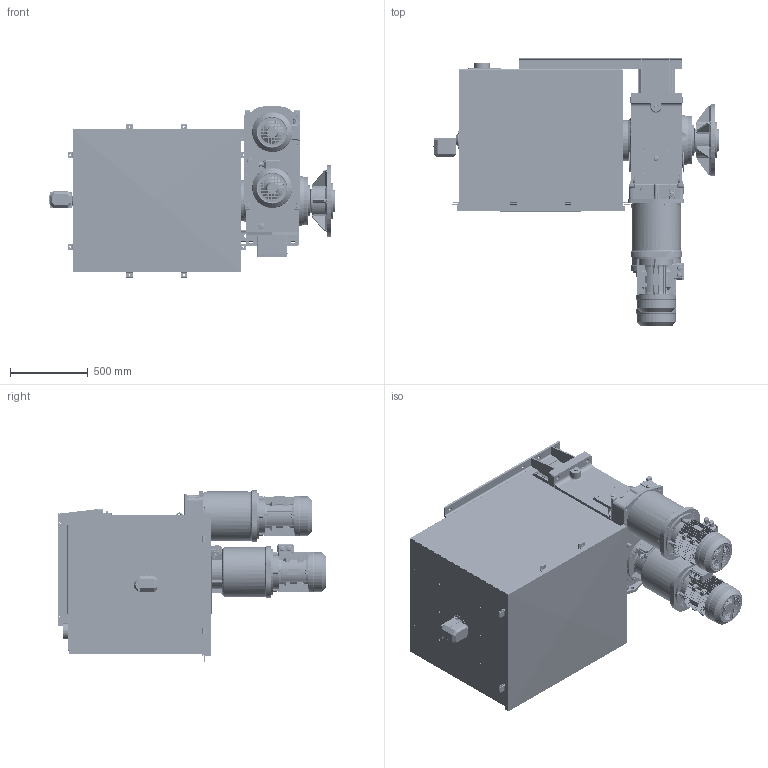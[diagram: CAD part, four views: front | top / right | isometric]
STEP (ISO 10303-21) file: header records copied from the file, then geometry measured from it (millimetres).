
FILE_DESCRIPTION(/* description */ (''),/* implementation_level */ '2;1');
FILE_NAME(/* name */ 'K:\NEMANJA\CABLE REEL\CABLE REEL DA\0700-6\07006002 DAPR-MCGBSR\STEP\75927 .stp',/* time_stamp */ '2017-03-17T10:55:32+01:00',/* author */ ('zeldjo01'),/* organization */ ('Hillmar Industries Ltd.'),/* preprocessor_version */ 'ST-DEVELOPER v16.1',/* originating_system */ 'Autodesk Inventor 2016',/* authorisation */ '');
FILE_SCHEMA (('AUTOMOTIVE_DESIGN { 1 0 10303 214 3 1 1 }'));
Products named in the file (1): 75927 
Bounding box: 1834.14 x 1729.71 x 1102.68 mm (x, y, z)
Volume: 124489698.2 mm3; surface area: 24434699.8 mm2
Topology: 11 solids, 11 shells, 10776 faces, 29515 edges, 19099 vertices
Faces by surface type: plane 6432, cylinder 2359, bspline 969, cone 594, torus 367, sphere 55
Full cylindrical faces by diameter (mm): 3 x8, 5 x8, 7 x4, 8 x4, 8.376 x24, 8.731 x1, 9 x3, 10 x45, 10.106 x93, 10.38 x1, 10.4 x4, 10.5 x4, 11 x32, 12 x12, 12.5 x6, 13 x39, 13.2 x1, 13.5 x12, 14 x28, 14.3 x12, 15 x17, 16.974 x2, 17 x4, 17.336 x1, 18 x4, 18.256 x3, 18.38 x4, 20 x17, 20.5 x4, 21.336 x2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
Entity records: 374073 total; most frequent: CARTESIAN_POINT 100576, ORIENTED_EDGE 56126, DIRECTION 50216, EDGE_CURVE 28044, VERTEX_POINT 18563, LINE 17306, VECTOR 17306, AXIS2_PLACEMENT_3D 16455
